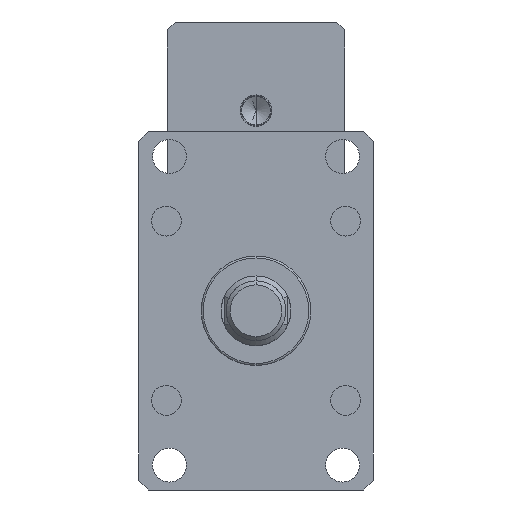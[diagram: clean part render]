
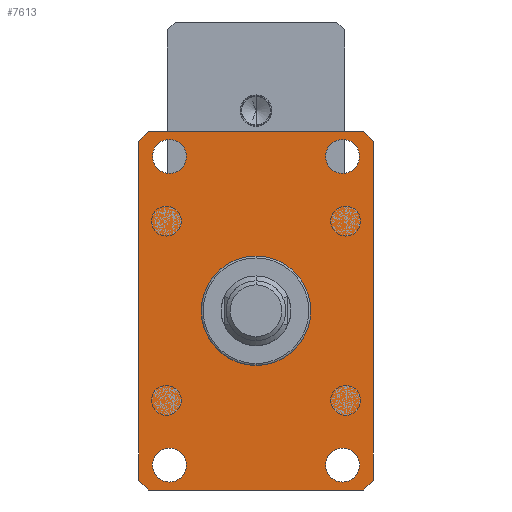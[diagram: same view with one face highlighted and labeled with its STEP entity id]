
A CAD part, front view. The second image highlights one B-rep face of the part: STEP entity #7613.
In plain terms, the highlighted planar face has unit normal (0, -1, 0).
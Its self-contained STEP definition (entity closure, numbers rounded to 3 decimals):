
#19 = EDGE_CURVE ( 'NONE', #5859, #10578, #8030, .T. ) ;
#202 = DIRECTION ( 'NONE',  ( 0., 1., 0. ) ) ;
#372 = DIRECTION ( 'NONE',  ( 0., -1., 0. ) ) ;
#383 = EDGE_CURVE ( 'NONE', #9107, #8172, #9505, .T. ) ;
#396 = FACE_BOUND ( 'NONE', #1713, .T. ) ;
#438 = CARTESIAN_POINT ( 'NONE',  ( 59., -55., 90. ) ) ;
#791 = EDGE_CURVE ( 'NONE', #8565, #9220, #6656, .T. ) ;
#845 = ORIENTED_EDGE ( 'NONE', *, *, #4666, .F. ) ;
#1001 = CARTESIAN_POINT ( 'NONE',  ( -59., -55., -85. ) ) ;
#1031 = CARTESIAN_POINT ( 'NONE',  ( -54., -55., 90. ) ) ;
#1285 = CARTESIAN_POINT ( 'NONE',  ( 54., -55., -90. ) ) ;
#1407 = DIRECTION ( 'NONE',  ( 0., 1., 0. ) ) ;
#1510 = EDGE_CURVE ( 'NONE', #5653, #7601, #7849, .T. ) ;
#1572 = VECTOR ( 'NONE', #2745, 1000. ) ;
#1591 = ORIENTED_EDGE ( 'NONE', *, *, #19, .T. ) ;
#1713 = EDGE_LOOP ( 'NONE', ( #11514, #11765 ) ) ;
#1853 = AXIS2_PLACEMENT_3D ( 'NONE', #7301, #1407, #8249 ) ;
#2034 = ORIENTED_EDGE ( 'NONE', *, *, #9314, .T. ) ;
#2047 = DIRECTION ( 'NONE',  ( 0., -1., 0. ) ) ;
#2157 = CARTESIAN_POINT ( 'NONE',  ( 43.5, -55., -86. ) ) ;
#2158 = VERTEX_POINT ( 'NONE', #10438 ) ;
#2241 = VERTEX_POINT ( 'NONE', #1001 ) ;
#2422 = EDGE_CURVE ( 'NONE', #9220, #8565, #4206, .T. ) ;
#2443 = DIRECTION ( 'NONE',  ( 0., 1., 0. ) ) ;
#2547 = AXIS2_PLACEMENT_3D ( 'NONE', #6278, #372, #7243 ) ;
#2552 = DIRECTION ( 'NONE',  ( 0., -1., 0. ) ) ;
#2745 = DIRECTION ( 'NONE',  ( 0.707, 0., 0.707 ) ) ;
#2909 = CIRCLE ( 'NONE', #8306, 8.5 ) ;
#3001 = AXIS2_PLACEMENT_3D ( 'NONE', #6110, #202, #7081 ) ;
#3040 = FACE_BOUND ( 'NONE', #3084, .T. ) ;
#3077 = ORIENTED_EDGE ( 'NONE', *, *, #1510, .T. ) ;
#3084 = EDGE_LOOP ( 'NONE', ( #9534, #2034 ) ) ;
#3423 = DIRECTION ( 'NONE',  ( -1., 0., 0. ) ) ;
#3598 = CARTESIAN_POINT ( 'NONE',  ( -59., -55., 85. ) ) ;
#3653 = CIRCLE ( 'NONE', #3001, 8.5 ) ;
#3981 = CARTESIAN_POINT ( 'NONE',  ( -43.5, -55., -86. ) ) ;
#4148 = DIRECTION ( 'NONE',  ( 0., -1., 0. ) ) ;
#4204 = DIRECTION ( 'NONE',  ( 0., 0., -1. ) ) ;
#4206 = CIRCLE ( 'NONE', #11557, 8.5 ) ;
#4268 = AXIS2_PLACEMENT_3D ( 'NONE', #8365, #2552, #9312 ) ;
#4273 = CIRCLE ( 'NONE', #2547, 8.5 ) ;
#4480 = CARTESIAN_POINT ( 'NONE',  ( 54., -55., 90. ) ) ;
#4514 = CARTESIAN_POINT ( 'NONE',  ( 43.5, -55., -77.5 ) ) ;
#4536 = DIRECTION ( 'NONE',  ( 0., 0., 1. ) ) ;
#4666 = EDGE_CURVE ( 'NONE', #5940, #2158, #4706, .T. ) ;
#4686 = CARTESIAN_POINT ( 'NONE',  ( 59., -55., -85. ) ) ;
#4706 = CIRCLE ( 'NONE', #10873, 8.5 ) ;
#4754 = LINE ( 'NONE', #4480, #7320 ) ;
#4895 = ORIENTED_EDGE ( 'NONE', *, *, #383, .T. ) ;
#4906 = EDGE_CURVE ( 'NONE', #7601, #5859, #11554, .T. ) ;
#4937 = CARTESIAN_POINT ( 'NONE',  ( -43.5, -55., 86. ) ) ;
#4993 = EDGE_CURVE ( 'NONE', #2241, #5653, #10668, .T. ) ;
#5306 = VECTOR ( 'NONE', #9103, 1000. ) ;
#5337 = AXIS2_PLACEMENT_3D ( 'NONE', #438, #2443, #9208 ) ;
#5506 = DIRECTION ( 'NONE',  ( 0., 0., 1. ) ) ;
#5570 = ORIENTED_EDGE ( 'NONE', *, *, #6136, .T. ) ;
#5614 = CARTESIAN_POINT ( 'NONE',  ( -43.5, -55., -77.5 ) ) ;
#5653 = VERTEX_POINT ( 'NONE', #8366 ) ;
#5663 = FACE_BOUND ( 'NONE', #8146, .T. ) ;
#5859 = VERTEX_POINT ( 'NONE', #11802 ) ;
#5916 = CIRCLE ( 'NONE', #12255, 8.5 ) ;
#5940 = VERTEX_POINT ( 'NONE', #5976 ) ;
#5976 = CARTESIAN_POINT ( 'NONE',  ( 43.5, -55., 69. ) ) ;
#6012 = ORIENTED_EDGE ( 'NONE', *, *, #6594, .T. ) ;
#6110 = CARTESIAN_POINT ( 'NONE',  ( -43.5, -55., -77.5 ) ) ;
#6136 = EDGE_CURVE ( 'NONE', #10578, #6212, #4754, .T. ) ;
#6187 = CARTESIAN_POINT ( 'NONE',  ( -43.5, -55., 69. ) ) ;
#6212 = VERTEX_POINT ( 'NONE', #9329 ) ;
#6278 = CARTESIAN_POINT ( 'NONE',  ( 43.5, -55., 77.5 ) ) ;
#6568 = ORIENTED_EDGE ( 'NONE', *, *, #4906, .T. ) ;
#6572 = DIRECTION ( 'NONE',  ( 0., 0., 1. ) ) ;
#6594 = EDGE_CURVE ( 'NONE', #8564, #8439, #3653, .T. ) ;
#6656 = CIRCLE ( 'NONE', #4268, 8.5 ) ;
#6667 = VECTOR ( 'NONE', #8426, 1000. ) ;
#6832 = ORIENTED_EDGE ( 'NONE', *, *, #10265, .T. ) ;
#7009 = EDGE_CURVE ( 'NONE', #6212, #9107, #10259, .T. ) ;
#7081 = DIRECTION ( 'NONE',  ( 0., 0., 1. ) ) ;
#7243 = DIRECTION ( 'NONE',  ( 0., 0., -1. ) ) ;
#7291 = CARTESIAN_POINT ( 'NONE',  ( -54., -55., 90. ) ) ;
#7299 = ORIENTED_EDGE ( 'NONE', *, *, #7009, .T. ) ;
#7301 = CARTESIAN_POINT ( 'NONE',  ( 43.5, -55., -77.5 ) ) ;
#7320 = VECTOR ( 'NONE', #10206, 1000. ) ;
#7462 = CARTESIAN_POINT ( 'NONE',  ( 59., -55., 85. ) ) ;
#7493 = ORIENTED_EDGE ( 'NONE', *, *, #4993, .T. ) ;
#7601 = VERTEX_POINT ( 'NONE', #1285 ) ;
#7613 = ADVANCED_FACE ( 'NONE', ( #396, #3040, #5663, #10424, #8196 ), #8255, .F. ) ;
#7752 = VECTOR ( 'NONE', #4536, 1000. ) ;
#7849 = LINE ( 'NONE', #11932, #5306 ) ;
#7905 = CARTESIAN_POINT ( 'NONE',  ( -43.5, -55., 77.5 ) ) ;
#8030 = LINE ( 'NONE', #7462, #7752 ) ;
#8039 = VECTOR ( 'NONE', #3423, 1000. ) ;
#8146 = EDGE_LOOP ( 'NONE', ( #6832, #6012 ) ) ;
#8149 = VECTOR ( 'NONE', #8706, 1000. ) ;
#8172 = VERTEX_POINT ( 'NONE', #11103 ) ;
#8196 = FACE_BOUND ( 'NONE', #11446, .T. ) ;
#8249 = DIRECTION ( 'NONE',  ( 0., 0., 1. ) ) ;
#8255 = PLANE ( 'NONE',  #5337 ) ;
#8306 = AXIS2_PLACEMENT_3D ( 'NONE', #5614, #12277, #6572 ) ;
#8365 = CARTESIAN_POINT ( 'NONE',  ( -43.5, -55., 77.5 ) ) ;
#8366 = CARTESIAN_POINT ( 'NONE',  ( -54., -55., -90. ) ) ;
#8426 = DIRECTION ( 'NONE',  ( -0.707, 0., -0.707 ) ) ;
#8439 = VERTEX_POINT ( 'NONE', #10379 ) ;
#8512 = ORIENTED_EDGE ( 'NONE', *, *, #11549, .F. ) ;
#8564 = VERTEX_POINT ( 'NONE', #3981 ) ;
#8565 = VERTEX_POINT ( 'NONE', #4937 ) ;
#8706 = DIRECTION ( 'NONE',  ( 0.707, 0., -0.707 ) ) ;
#8849 = DIRECTION ( 'NONE',  ( 0., 0., -1. ) ) ;
#9063 = ORIENTED_EDGE ( 'NONE', *, *, #11465, .T. ) ;
#9103 = DIRECTION ( 'NONE',  ( 1., 0., 0. ) ) ;
#9107 = VERTEX_POINT ( 'NONE', #1031 ) ;
#9116 = CIRCLE ( 'NONE', #1853, 8.5 ) ;
#9208 = DIRECTION ( 'NONE',  ( 0., 0., 1. ) ) ;
#9220 = VERTEX_POINT ( 'NONE', #6187 ) ;
#9312 = DIRECTION ( 'NONE',  ( 0., 0., -1. ) ) ;
#9314 = EDGE_CURVE ( 'NONE', #10561, #10927, #9116, .T. ) ;
#9329 = CARTESIAN_POINT ( 'NONE',  ( 54., -55., 90. ) ) ;
#9370 = VECTOR ( 'NONE', #4204, 1000. ) ;
#9505 = LINE ( 'NONE', #3598, #6667 ) ;
#9534 = ORIENTED_EDGE ( 'NONE', *, *, #12275, .T. ) ;
#9682 = LINE ( 'NONE', #10889, #9370 ) ;
#9889 = CARTESIAN_POINT ( 'NONE',  ( 43.5, -55., 77.5 ) ) ;
#10200 = CARTESIAN_POINT ( 'NONE',  ( 43.5, -55., -69. ) ) ;
#10206 = DIRECTION ( 'NONE',  ( -0.707, 0., 0.707 ) ) ;
#10259 = LINE ( 'NONE', #7291, #8039 ) ;
#10265 = EDGE_CURVE ( 'NONE', #8439, #8564, #2909, .T. ) ;
#10379 = CARTESIAN_POINT ( 'NONE',  ( -43.5, -55., -69. ) ) ;
#10424 = FACE_OUTER_BOUND ( 'NONE', #12404, .T. ) ;
#10438 = CARTESIAN_POINT ( 'NONE',  ( 43.5, -55., 86. ) ) ;
#10561 = VERTEX_POINT ( 'NONE', #2157 ) ;
#10578 = VERTEX_POINT ( 'NONE', #11844 ) ;
#10668 = LINE ( 'NONE', #12496, #8149 ) ;
#10830 = DIRECTION ( 'NONE',  ( 0., 0., -1. ) ) ;
#10873 = AXIS2_PLACEMENT_3D ( 'NONE', #9889, #4148, #10830 ) ;
#10889 = CARTESIAN_POINT ( 'NONE',  ( -59., -55., 85. ) ) ;
#10927 = VERTEX_POINT ( 'NONE', #10200 ) ;
#11103 = CARTESIAN_POINT ( 'NONE',  ( -59., -55., 85. ) ) ;
#11198 = DIRECTION ( 'NONE',  ( 0., 1., 0. ) ) ;
#11446 = EDGE_LOOP ( 'NONE', ( #8512, #845 ) ) ;
#11465 = EDGE_CURVE ( 'NONE', #8172, #2241, #9682, .T. ) ;
#11514 = ORIENTED_EDGE ( 'NONE', *, *, #791, .F. ) ;
#11549 = EDGE_CURVE ( 'NONE', #2158, #5940, #4273, .T. ) ;
#11554 = LINE ( 'NONE', #4686, #1572 ) ;
#11557 = AXIS2_PLACEMENT_3D ( 'NONE', #7905, #2047, #8849 ) ;
#11765 = ORIENTED_EDGE ( 'NONE', *, *, #2422, .F. ) ;
#11802 = CARTESIAN_POINT ( 'NONE',  ( 59., -55., -85. ) ) ;
#11844 = CARTESIAN_POINT ( 'NONE',  ( 59., -55., 85. ) ) ;
#11932 = CARTESIAN_POINT ( 'NONE',  ( -54., -55., -90. ) ) ;
#12255 = AXIS2_PLACEMENT_3D ( 'NONE', #4514, #11198, #5506 ) ;
#12275 = EDGE_CURVE ( 'NONE', #10927, #10561, #5916, .T. ) ;
#12277 = DIRECTION ( 'NONE',  ( 0., 1., 0. ) ) ;
#12404 = EDGE_LOOP ( 'NONE', ( #7299, #4895, #9063, #7493, #3077, #6568, #1591, #5570 ) ) ;
#12496 = CARTESIAN_POINT ( 'NONE',  ( -59., -55., -85. ) ) ;
